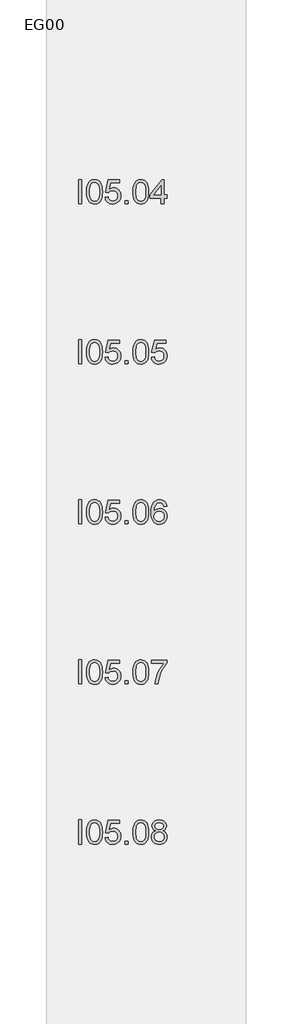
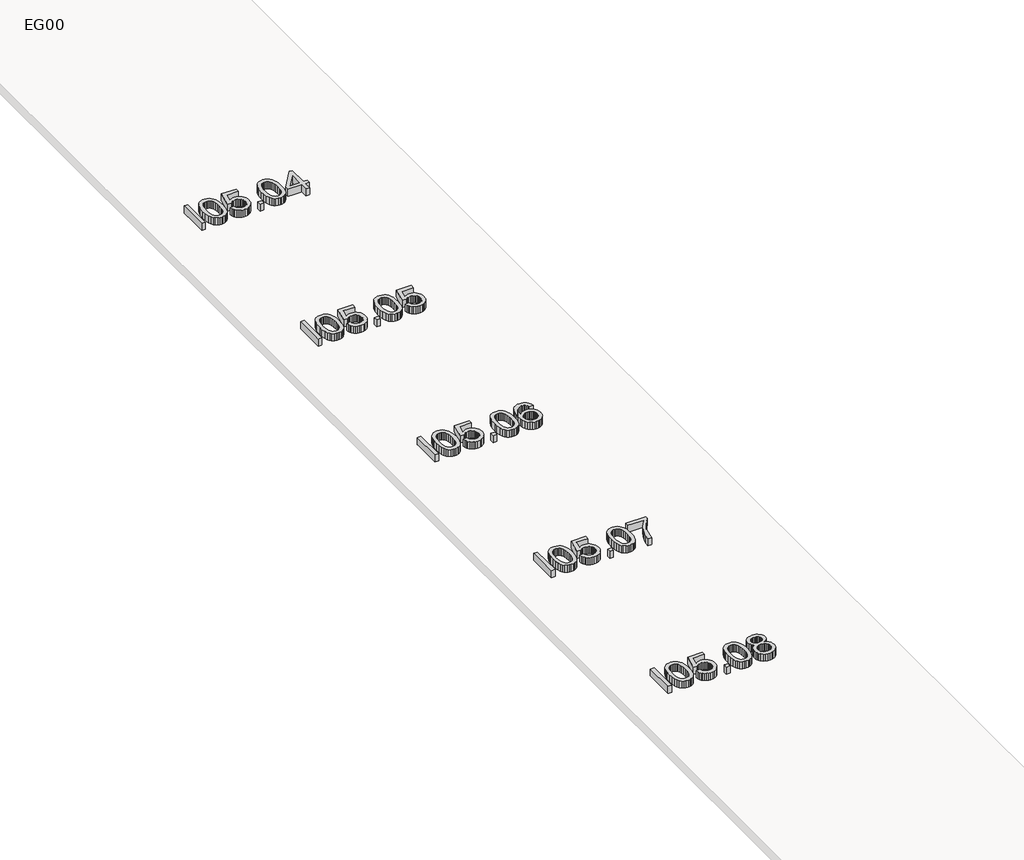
# One storey, part 5 of 11: 5 proxies.
"""IFC4 building model written with IfcOpenShell, lengths in millimetres."""

from ifc_helpers import new_model, si_unit, origin, origin_with_axes, place, context, project, spatial, polyline, outline, extrude, element, save

model = new_model("IFC4")

# Units and contexts
model_context = context("Model", 3, world=origin())
ifc_project = project(units=[si_unit("LENGTHUNIT", "METRE", prefix="MILLI")], contexts=[model_context])

# Site, building, storey
site = spatial("IfcSite", under=ifc_project)
building = spatial("IfcBuilding", under=site)
storey = spatial("IfcBuildingStorey", under=building, Name="EG00", Elevation=0.0)

# Proxies
placement = place(None, origin())
element("IfcBuildingElementProxy", 1, Name="600mm Arial", ObjectType="600mm Arial", at=placement, inside=storey, context=model_context, shape_type="SweptSolid", body=[
    extrude(outline(polyline([(41098.4530284, -102070.0529019), (41098.4530284, -101467.315041), (41173.795261, -101467.315041), (41173.795261, -102070.0529019), (41098.4530284, -102070.0529019)])), origin_with_axes(), (0.0, 0.0, 1.0), 150.0),
    extrude(outline(polyline([(41296.226389, -101773.5400137), (41301.763013, -101677.0629605), (41308.6837931, -101636.1498841), (41318.3728851, -101600.1204412), (41330.7889025, -101568.6803262), (41345.8904584, -101541.5352335), (41363.6775528, -101518.6851631), (41384.1501859, -101500.1301149), (41407.3773353, -101485.7735201), (41433.4279791, -101475.5188095), (41462.3021172, -101469.3659831), (41493.9997496, -101467.315041), (41540.4264574, -101472.1710833), (41581.9971229, -101486.7392103), (41616.7619714, -101510.4492049), (41642.7712285, -101542.73085), (41662.416127, -101583.308234), (41678.0879, -101631.9054456), (41688.3518077, -101693.6176503), (41691.7731102, -101773.5400137), (41686.2916685, -101869.465244), (41679.4398663, -101910.2403646), (41669.8473433, -101946.2238223), (41657.527895, -101977.6777329), (41642.495317, -102004.8642123), (41624.7496092, -102027.7832606), (41604.2907718, -102046.4348778), (41581.0360312, -102060.8880417), (41554.9026139, -102071.2117301), (41525.8905201, -102077.4059432), (41493.9997496, -102079.4706809), (41452.5026606, -102075.8838315), (41415.7144611, -102065.1232831), (41383.6351511, -102047.1890359), (41356.2647306, -102022.0810897), (41329.9979562, -101976.6936485), (41311.2359744, -101920.1409888), (41299.9787854, -101852.4231106), (41296.226389, -101773.5400137)]), holes=[polyline([(41371.5686216, -101773.3928609), (41373.7759136, -101838.8896517), (41380.3977895, -101891.9060457), (41391.4342494, -101932.442043), (41406.8852932, -101960.4976437), (41425.5736985, -101979.5861207), (41446.3222431, -101993.2207472), (41469.1309268, -102001.401523), (41493.9997496, -102004.1284483), (41518.8685725, -102001.392326), (41541.6772562, -101993.183959), (41562.4258007, -101979.5033473), (41581.1142061, -101960.3504909), (41596.5652499, -101932.248905), (41607.6017097, -101891.7221047), (41614.2235857, -101838.77009), (41616.4308776, -101773.3928609), (41614.297162, -101709.6297141), (41607.8960153, -101657.5468207), (41597.2274375, -101617.1441805), (41582.2914285, -101588.4217938), (41563.9157228, -101568.3998162), (41542.928055, -101554.0984036), (41519.328425, -101545.5175561), (41493.1168328, -101542.6572736), (41468.3767687, -101545.1772652), (41445.9543611, -101552.7372402), (41425.84961, -101565.3371986), (41408.0625156, -101582.9771402), (41392.096437, -101614.2471098), (41380.6920951, -101656.4063865), (41373.84949, -101709.4549702), (41371.5686216, -101773.3928609)])]), origin_with_axes(), (0.0, 0.0, 1.0), 150.0),
    extrude(outline(polyline([(41757.6975638, -101909.9506576), (41833.0397964, -101900.5328785), (41838.6683909, -101924.7533093), (41846.8721594, -101945.7639698), (41857.6511019, -101963.5648598), (41871.0052183, -101978.1559795), (41886.9069175, -101989.5189346), (41905.3286084, -101997.6353311), (41926.270291, -102002.505169), (41949.7319653, -102004.1284483), (41978.4267609, -102001.8705726), (42003.7370421, -101995.0969453), (42025.6628091, -101983.8075666), (42044.2040616, -101968.0024364), (42058.9469326, -101948.4633039), (42069.4775547, -101925.9719184), (42075.7959279, -101900.52828), (42077.9020524, -101872.1323885), (42075.9292852, -101845.2953969), (42070.0109836, -101821.4382495), (42060.1471476, -101800.5609463), (42046.3377772, -101782.6634872), (42028.5368871, -101768.3068924), (42006.6984922, -101758.0521818), (41980.8225924, -101751.8993554), (41950.9091876, -101749.8484133), (41914.3601114, -101753.122563), (41884.7640049, -101762.9450123), (41861.1275867, -101777.9913859), (41842.4575755, -101796.9373086), (41767.1153428, -101787.5195296), (41833.0397964, -101476.73282), (42124.9909478, -101476.73282), (42124.9909478, -101552.0750527), (41893.9610548, -101552.0750527), (41861.734592, -101718.0634089), (41888.3232632, -101699.0071215), (41915.5557279, -101685.3954877), (41943.4319861, -101677.2285074), (41971.9520378, -101674.5061806), (42008.6436683, -101677.881498), (42042.3462575, -101688.0074499), (42073.0598056, -101704.8840364), (42100.7843125, -101728.5112575), (42123.7355504, -101757.4451765), (42140.1292919, -101790.2418563), (42149.9655367, -101826.9012971), (42153.244285, -101867.4234989), (42150.292032, -101906.4557786), (42141.4352729, -101942.7657315), (42126.6740079, -101976.3533577), (42106.0082368, -102007.2186571), (42074.701479, -102038.8289175), (42038.1707969, -102061.407675), (41996.4161904, -102074.9549294), (41949.4376597, -102079.4706809), (41910.5571313, -102076.5690117), (41875.4381963, -102067.864004), (41844.0808548, -102053.3556578), (41816.4851066, -102033.0439731), (41793.5246716, -102007.9406255), (41776.0732694, -101979.0572904), (41764.1309002, -101946.3939677), (41757.6975638, -101909.9506576)])), origin_with_axes(), (0.0, 0.0, 1.0), 150.0),
    extrude(outline(polyline([(42256.8398548, -102070.0529019), (42256.8398548, -101994.7106692), (42332.1820874, -101994.7106692), (42332.1820874, -102070.0529019), (42256.8398548, -102070.0529019)])), origin_with_axes(), (0.0, 0.0, 1.0), 150.0),
    extrude(outline(polyline([(42454.6132154, -101773.5400137), (42460.1498395, -101677.0629605), (42467.0706195, -101636.1498841), (42476.7597115, -101600.1204412), (42489.1757289, -101568.6803262), (42504.2772848, -101541.5352335), (42522.0643792, -101518.6851631), (42542.5370123, -101500.1301149), (42565.7641618, -101485.7735201), (42591.8148055, -101475.5188095), (42620.6889436, -101469.3659831), (42652.386576, -101467.315041), (42698.8132838, -101472.1710833), (42740.3839493, -101486.7392103), (42775.1487978, -101510.4492049), (42801.1580549, -101542.73085), (42820.8029534, -101583.308234), (42836.4747264, -101631.9054456), (42846.7386341, -101693.6176503), (42850.1599366, -101773.5400137), (42844.6784949, -101869.465244), (42837.8266928, -101910.2403646), (42828.2341697, -101946.2238223), (42815.9147214, -101977.6777329), (42800.8821434, -102004.8642123), (42783.1364357, -102027.7832606), (42762.6775982, -102046.4348778), (42739.4228576, -102060.8880417), (42713.2894403, -102071.2117301), (42684.2773465, -102077.4059432), (42652.386576, -102079.4706809), (42610.889487, -102075.8838315), (42574.1012875, -102065.1232831), (42542.0219775, -102047.1890359), (42514.651557, -102022.0810897), (42488.3847826, -101976.6936485), (42469.6228008, -101920.1409888), (42458.3656118, -101852.4231106), (42454.6132154, -101773.5400137)]), holes=[polyline([(42529.955448, -101773.3928609), (42532.16274, -101838.8896517), (42538.7846159, -101891.9060457), (42549.8210758, -101932.442043), (42565.2721196, -101960.4976437), (42583.9605249, -101979.5861207), (42604.7090695, -101993.2207472), (42627.5177532, -102001.401523), (42652.386576, -102004.1284483), (42677.2553989, -102001.392326), (42700.0640826, -101993.183959), (42720.8126271, -101979.5033473), (42739.5010325, -101960.3504909), (42754.9520763, -101932.248905), (42765.9885362, -101891.7221047), (42772.6104121, -101838.77009), (42774.817704, -101773.3928609), (42772.6839885, -101709.6297141), (42766.2828417, -101657.5468207), (42755.6142639, -101617.1441805), (42740.6782549, -101588.4217938), (42722.3025492, -101568.3998162), (42701.3148814, -101554.0984036), (42677.7152514, -101545.5175561), (42651.5036593, -101542.6572736), (42626.7635951, -101545.1772652), (42604.3411875, -101552.7372402), (42584.2364364, -101565.3371986), (42566.449342, -101582.9771402), (42550.4832634, -101614.2471098), (42539.0789215, -101656.4063865), (42532.2363164, -101709.4549702), (42529.955448, -101773.3928609)])]), origin_with_axes(), (0.0, 0.0, 1.0), 150.0),
    extrude(outline(polyline([(43160.9466462, -102070.0529019), (43160.9466462, -101928.7862157), (42887.831053, -101928.7862157), (42887.831053, -101853.4439831), (43179.7822043, -101476.73282), (43236.2888788, -101476.73282), (43236.2888788, -101853.4439831), (43311.6311114, -101853.4439831), (43311.6311114, -101928.7862157), (43236.2888788, -101928.7862157), (43236.2888788, -102070.0529019), (43160.9466462, -102070.0529019)]), holes=[polyline([(43160.9466462, -101853.4439831), (43160.9466462, -101620.6482566), (42980.5373157, -101853.4439831), (43160.9466462, -101853.4439831)])]), origin_with_axes(), (0.0, 0.0, 1.0), 150.0),
])
element("IfcBuildingElementProxy", 2, Name="600mm Arial", ObjectType="600mm Arial", at=placement, inside=storey, context=model_context, shape_type="SweptSolid", body=[
    extrude(outline(polyline([(41098.4530284, -106070.0529019), (41098.4530284, -105467.315041), (41173.795261, -105467.315041), (41173.795261, -106070.0529019), (41098.4530284, -106070.0529019)])), origin_with_axes(), (0.0, 0.0, 1.0), 150.0),
    extrude(outline(polyline([(41296.226389, -105773.5400137), (41301.763013, -105677.0629605), (41308.6837931, -105636.1498841), (41318.3728851, -105600.1204412), (41330.7889025, -105568.6803262), (41345.8904584, -105541.5352335), (41363.6775528, -105518.6851631), (41384.1501859, -105500.1301149), (41407.3773353, -105485.7735201), (41433.4279791, -105475.5188095), (41462.3021172, -105469.3659831), (41493.9997496, -105467.315041), (41540.4264574, -105472.1710833), (41581.9971229, -105486.7392103), (41616.7619714, -105510.4492049), (41642.7712285, -105542.73085), (41662.416127, -105583.308234), (41678.0879, -105631.9054456), (41688.3518077, -105693.6176503), (41691.7731102, -105773.5400137), (41686.2916685, -105869.465244), (41679.4398663, -105910.2403646), (41669.8473433, -105946.2238223), (41657.527895, -105977.6777329), (41642.495317, -106004.8642123), (41624.7496092, -106027.7832606), (41604.2907718, -106046.4348778), (41581.0360312, -106060.8880417), (41554.9026139, -106071.2117301), (41525.8905201, -106077.4059432), (41493.9997496, -106079.4706809), (41452.5026606, -106075.8838315), (41415.7144611, -106065.1232831), (41383.6351511, -106047.1890359), (41356.2647306, -106022.0810897), (41329.9979562, -105976.6936485), (41311.2359744, -105920.1409888), (41299.9787854, -105852.4231106), (41296.226389, -105773.5400137)]), holes=[polyline([(41371.5686216, -105773.3928609), (41373.7759136, -105838.8896517), (41380.3977895, -105891.9060457), (41391.4342494, -105932.442043), (41406.8852932, -105960.4976437), (41425.5736985, -105979.5861207), (41446.3222431, -105993.2207472), (41469.1309268, -106001.401523), (41493.9997496, -106004.1284483), (41518.8685725, -106001.392326), (41541.6772562, -105993.183959), (41562.4258007, -105979.5033473), (41581.1142061, -105960.3504909), (41596.5652499, -105932.248905), (41607.6017097, -105891.7221047), (41614.2235857, -105838.77009), (41616.4308776, -105773.3928609), (41614.297162, -105709.6297141), (41607.8960153, -105657.5468207), (41597.2274375, -105617.1441805), (41582.2914285, -105588.4217938), (41563.9157228, -105568.3998162), (41542.928055, -105554.0984036), (41519.328425, -105545.5175561), (41493.1168328, -105542.6572736), (41468.3767687, -105545.1772652), (41445.9543611, -105552.7372402), (41425.84961, -105565.3371986), (41408.0625156, -105582.9771402), (41392.096437, -105614.2471098), (41380.6920951, -105656.4063865), (41373.84949, -105709.4549702), (41371.5686216, -105773.3928609)])]), origin_with_axes(), (0.0, 0.0, 1.0), 150.0),
    extrude(outline(polyline([(41757.6975638, -105909.9506576), (41833.0397964, -105900.5328785), (41838.6683909, -105924.7533093), (41846.8721594, -105945.7639698), (41857.6511019, -105963.5648598), (41871.0052183, -105978.1559795), (41886.9069175, -105989.5189346), (41905.3286084, -105997.6353311), (41926.270291, -106002.505169), (41949.7319653, -106004.1284483), (41978.4267609, -106001.8705726), (42003.7370421, -105995.0969453), (42025.6628091, -105983.8075666), (42044.2040616, -105968.0024364), (42058.9469326, -105948.4633039), (42069.4775547, -105925.9719184), (42075.7959279, -105900.52828), (42077.9020524, -105872.1323885), (42075.9292852, -105845.2953969), (42070.0109836, -105821.4382495), (42060.1471476, -105800.5609463), (42046.3377772, -105782.6634872), (42028.5368871, -105768.3068924), (42006.6984922, -105758.0521818), (41980.8225924, -105751.8993554), (41950.9091876, -105749.8484133), (41914.3601114, -105753.122563), (41884.7640049, -105762.9450123), (41861.1275867, -105777.9913859), (41842.4575755, -105796.9373086), (41767.1153428, -105787.5195296), (41833.0397964, -105476.73282), (42124.9909478, -105476.73282), (42124.9909478, -105552.0750527), (41893.9610548, -105552.0750527), (41861.734592, -105718.0634089), (41888.3232632, -105699.0071215), (41915.5557279, -105685.3954877), (41943.4319861, -105677.2285074), (41971.9520378, -105674.5061806), (42008.6436683, -105677.881498), (42042.3462575, -105688.0074499), (42073.0598056, -105704.8840364), (42100.7843125, -105728.5112575), (42123.7355504, -105757.4451765), (42140.1292919, -105790.2418563), (42149.9655367, -105826.9012971), (42153.244285, -105867.4234989), (42150.292032, -105906.4557786), (42141.4352729, -105942.7657315), (42126.6740079, -105976.3533577), (42106.0082368, -106007.2186571), (42074.701479, -106038.8289175), (42038.1707969, -106061.407675), (41996.4161904, -106074.9549294), (41949.4376597, -106079.4706809), (41910.5571313, -106076.5690117), (41875.4381963, -106067.864004), (41844.0808548, -106053.3556578), (41816.4851066, -106033.0439731), (41793.5246716, -106007.9406255), (41776.0732694, -105979.0572904), (41764.1309002, -105946.3939677), (41757.6975638, -105909.9506576)])), origin_with_axes(), (0.0, 0.0, 1.0), 150.0),
    extrude(outline(polyline([(42256.8398548, -106070.0529019), (42256.8398548, -105994.7106692), (42332.1820874, -105994.7106692), (42332.1820874, -106070.0529019), (42256.8398548, -106070.0529019)])), origin_with_axes(), (0.0, 0.0, 1.0), 150.0),
    extrude(outline(polyline([(42454.6132154, -105773.5400137), (42460.1498395, -105677.0629605), (42467.0706195, -105636.1498841), (42476.7597115, -105600.1204412), (42489.1757289, -105568.6803262), (42504.2772848, -105541.5352335), (42522.0643792, -105518.6851631), (42542.5370123, -105500.1301149), (42565.7641618, -105485.7735201), (42591.8148055, -105475.5188095), (42620.6889436, -105469.3659831), (42652.386576, -105467.315041), (42698.8132838, -105472.1710833), (42740.3839493, -105486.7392103), (42775.1487978, -105510.4492049), (42801.1580549, -105542.73085), (42820.8029534, -105583.308234), (42836.4747264, -105631.9054456), (42846.7386341, -105693.6176503), (42850.1599366, -105773.5400137), (42844.6784949, -105869.465244), (42837.8266928, -105910.2403646), (42828.2341697, -105946.2238223), (42815.9147214, -105977.6777329), (42800.8821434, -106004.8642123), (42783.1364357, -106027.7832606), (42762.6775982, -106046.4348778), (42739.4228576, -106060.8880417), (42713.2894403, -106071.2117301), (42684.2773465, -106077.4059432), (42652.386576, -106079.4706809), (42610.889487, -106075.8838315), (42574.1012875, -106065.1232831), (42542.0219775, -106047.1890359), (42514.651557, -106022.0810897), (42488.3847826, -105976.6936485), (42469.6228008, -105920.1409888), (42458.3656118, -105852.4231106), (42454.6132154, -105773.5400137)]), holes=[polyline([(42529.955448, -105773.3928609), (42532.16274, -105838.8896517), (42538.7846159, -105891.9060457), (42549.8210758, -105932.442043), (42565.2721196, -105960.4976437), (42583.9605249, -105979.5861207), (42604.7090695, -105993.2207472), (42627.5177532, -106001.401523), (42652.386576, -106004.1284483), (42677.2553989, -106001.392326), (42700.0640826, -105993.183959), (42720.8126271, -105979.5033473), (42739.5010325, -105960.3504909), (42754.9520763, -105932.248905), (42765.9885362, -105891.7221047), (42772.6104121, -105838.77009), (42774.817704, -105773.3928609), (42772.6839885, -105709.6297141), (42766.2828417, -105657.5468207), (42755.6142639, -105617.1441805), (42740.6782549, -105588.4217938), (42722.3025492, -105568.3998162), (42701.3148814, -105554.0984036), (42677.7152514, -105545.5175561), (42651.5036593, -105542.6572736), (42626.7635951, -105545.1772652), (42604.3411875, -105552.7372402), (42584.2364364, -105565.3371986), (42566.449342, -105582.9771402), (42550.4832634, -105614.2471098), (42539.0789215, -105656.4063865), (42532.2363164, -105709.4549702), (42529.955448, -105773.3928609)])]), origin_with_axes(), (0.0, 0.0, 1.0), 150.0),
    extrude(outline(polyline([(42916.0843902, -105909.9506576), (42991.4266228, -105900.5328785), (42997.0552173, -105924.7533093), (43005.2589858, -105945.7639698), (43016.0379283, -105963.5648598), (43029.3920447, -105978.1559795), (43045.2937439, -105989.5189346), (43063.7154348, -105997.6353311), (43084.6571174, -106002.505169), (43108.1187917, -106004.1284483), (43136.8135873, -106001.8705726), (43162.1238686, -105995.0969453), (43184.0496355, -105983.8075666), (43202.590888, -105968.0024364), (43217.333759, -105948.4633039), (43227.8643811, -105925.9719184), (43234.1827544, -105900.52828), (43236.2888788, -105872.1323885), (43234.3161116, -105845.2953969), (43228.39781, -105821.4382495), (43218.533974, -105800.5609463), (43204.7246036, -105782.6634872), (43186.9237136, -105768.3068924), (43165.0853186, -105758.0521818), (43139.2094188, -105751.8993554), (43109.296014, -105749.8484133), (43072.7469378, -105753.122563), (43043.1508313, -105762.9450123), (43019.5144131, -105777.9913859), (43000.8444019, -105796.9373086), (42925.5021693, -105787.5195296), (42991.4266228, -105476.73282), (43283.3777742, -105476.73282), (43283.3777742, -105552.0750527), (43052.3478812, -105552.0750527), (43020.1214184, -105718.0634089), (43046.7100896, -105699.0071215), (43073.9425543, -105685.3954877), (43101.8188125, -105677.2285074), (43130.3388642, -105674.5061806), (43167.0304947, -105677.881498), (43200.733084, -105688.0074499), (43231.446632, -105704.8840364), (43259.1711389, -105728.5112575), (43282.1223769, -105757.4451765), (43298.5161183, -105790.2418563), (43308.3523631, -105826.9012971), (43311.6311114, -105867.4234989), (43308.6788584, -105906.4557786), (43299.8220994, -105942.7657315), (43285.0608343, -105976.3533577), (43264.3950632, -106007.2186571), (43233.0883054, -106038.8289175), (43196.5576233, -106061.407675), (43154.8030169, -106074.9549294), (43107.8244861, -106079.4706809), (43068.9439577, -106076.5690117), (43033.8250227, -106067.864004), (43002.4676812, -106053.3556578), (42974.871933, -106033.0439731), (42951.911498, -106007.9406255), (42934.4600958, -105979.0572904), (42922.5177266, -105946.3939677), (42916.0843902, -105909.9506576)])), origin_with_axes(), (0.0, 0.0, 1.0), 150.0),
])
element("IfcBuildingElementProxy", 3, Name="600mm Arial", ObjectType="600mm Arial", at=placement, inside=storey, context=model_context, shape_type="SweptSolid", body=[
    extrude(outline(polyline([(41098.4530284, -110070.0529019), (41098.4530284, -109467.315041), (41173.795261, -109467.315041), (41173.795261, -110070.0529019), (41098.4530284, -110070.0529019)])), origin_with_axes(), (0.0, 0.0, 1.0), 150.0),
    extrude(outline(polyline([(41296.226389, -109773.5400137), (41301.763013, -109677.0629605), (41308.6837931, -109636.1498841), (41318.3728851, -109600.1204412), (41330.7889025, -109568.6803262), (41345.8904584, -109541.5352335), (41363.6775528, -109518.6851631), (41384.1501859, -109500.1301149), (41407.3773353, -109485.7735201), (41433.4279791, -109475.5188095), (41462.3021172, -109469.3659831), (41493.9997496, -109467.315041), (41540.4264574, -109472.1710833), (41581.9971229, -109486.7392103), (41616.7619714, -109510.4492049), (41642.7712285, -109542.73085), (41662.416127, -109583.308234), (41678.0879, -109631.9054456), (41688.3518077, -109693.6176503), (41691.7731102, -109773.5400137), (41686.2916685, -109869.465244), (41679.4398663, -109910.2403646), (41669.8473433, -109946.2238223), (41657.527895, -109977.6777329), (41642.495317, -110004.8642123), (41624.7496092, -110027.7832606), (41604.2907718, -110046.4348778), (41581.0360312, -110060.8880417), (41554.9026139, -110071.2117301), (41525.8905201, -110077.4059432), (41493.9997496, -110079.4706809), (41452.5026606, -110075.8838315), (41415.7144611, -110065.1232831), (41383.6351511, -110047.1890359), (41356.2647306, -110022.0810897), (41329.9979562, -109976.6936485), (41311.2359744, -109920.1409888), (41299.9787854, -109852.4231106), (41296.226389, -109773.5400137)]), holes=[polyline([(41371.5686216, -109773.3928609), (41373.7759136, -109838.8896517), (41380.3977895, -109891.9060457), (41391.4342494, -109932.442043), (41406.8852932, -109960.4976437), (41425.5736985, -109979.5861207), (41446.3222431, -109993.2207472), (41469.1309268, -110001.401523), (41493.9997496, -110004.1284483), (41518.8685725, -110001.392326), (41541.6772562, -109993.183959), (41562.4258007, -109979.5033473), (41581.1142061, -109960.3504909), (41596.5652499, -109932.248905), (41607.6017097, -109891.7221047), (41614.2235857, -109838.77009), (41616.4308776, -109773.3928609), (41614.297162, -109709.6297141), (41607.8960153, -109657.5468207), (41597.2274375, -109617.1441805), (41582.2914285, -109588.4217938), (41563.9157228, -109568.3998162), (41542.928055, -109554.0984036), (41519.328425, -109545.5175561), (41493.1168328, -109542.6572736), (41468.3767687, -109545.1772652), (41445.9543611, -109552.7372402), (41425.84961, -109565.3371986), (41408.0625156, -109582.9771402), (41392.096437, -109614.2471098), (41380.6920951, -109656.4063865), (41373.84949, -109709.4549702), (41371.5686216, -109773.3928609)])]), origin_with_axes(), (0.0, 0.0, 1.0), 150.0),
    extrude(outline(polyline([(41757.6975638, -109909.9506576), (41833.0397964, -109900.5328785), (41838.6683909, -109924.7533093), (41846.8721594, -109945.7639698), (41857.6511019, -109963.5648598), (41871.0052183, -109978.1559795), (41886.9069175, -109989.5189346), (41905.3286084, -109997.6353311), (41926.270291, -110002.505169), (41949.7319653, -110004.1284483), (41978.4267609, -110001.8705726), (42003.7370421, -109995.0969453), (42025.6628091, -109983.8075666), (42044.2040616, -109968.0024364), (42058.9469326, -109948.4633039), (42069.4775547, -109925.9719184), (42075.7959279, -109900.52828), (42077.9020524, -109872.1323885), (42075.9292852, -109845.2953969), (42070.0109836, -109821.4382495), (42060.1471476, -109800.5609463), (42046.3377772, -109782.6634872), (42028.5368871, -109768.3068924), (42006.6984922, -109758.0521818), (41980.8225924, -109751.8993554), (41950.9091876, -109749.8484133), (41914.3601114, -109753.122563), (41884.7640049, -109762.9450123), (41861.1275867, -109777.9913859), (41842.4575755, -109796.9373086), (41767.1153428, -109787.5195296), (41833.0397964, -109476.73282), (42124.9909478, -109476.73282), (42124.9909478, -109552.0750527), (41893.9610548, -109552.0750527), (41861.734592, -109718.0634089), (41888.3232632, -109699.0071215), (41915.5557279, -109685.3954877), (41943.4319861, -109677.2285074), (41971.9520378, -109674.5061806), (42008.6436683, -109677.881498), (42042.3462575, -109688.0074499), (42073.0598056, -109704.8840364), (42100.7843125, -109728.5112575), (42123.7355504, -109757.4451765), (42140.1292919, -109790.2418563), (42149.9655367, -109826.9012971), (42153.244285, -109867.4234989), (42150.292032, -109906.4557786), (42141.4352729, -109942.7657315), (42126.6740079, -109976.3533577), (42106.0082368, -110007.2186571), (42074.701479, -110038.8289175), (42038.1707969, -110061.407675), (41996.4161904, -110074.9549294), (41949.4376597, -110079.4706809), (41910.5571313, -110076.5690117), (41875.4381963, -110067.864004), (41844.0808548, -110053.3556578), (41816.4851066, -110033.0439731), (41793.5246716, -110007.9406255), (41776.0732694, -109979.0572904), (41764.1309002, -109946.3939677), (41757.6975638, -109909.9506576)])), origin_with_axes(), (0.0, 0.0, 1.0), 150.0),
    extrude(outline(polyline([(42256.8398548, -110070.0529019), (42256.8398548, -109994.7106692), (42332.1820874, -109994.7106692), (42332.1820874, -110070.0529019), (42256.8398548, -110070.0529019)])), origin_with_axes(), (0.0, 0.0, 1.0), 150.0),
    extrude(outline(polyline([(42454.6132154, -109773.5400137), (42460.1498395, -109677.0629605), (42467.0706195, -109636.1498841), (42476.7597115, -109600.1204412), (42489.1757289, -109568.6803262), (42504.2772848, -109541.5352335), (42522.0643792, -109518.6851631), (42542.5370123, -109500.1301149), (42565.7641618, -109485.7735201), (42591.8148055, -109475.5188095), (42620.6889436, -109469.3659831), (42652.386576, -109467.315041), (42698.8132838, -109472.1710833), (42740.3839493, -109486.7392103), (42775.1487978, -109510.4492049), (42801.1580549, -109542.73085), (42820.8029534, -109583.308234), (42836.4747264, -109631.9054456), (42846.7386341, -109693.6176503), (42850.1599366, -109773.5400137), (42844.6784949, -109869.465244), (42837.8266928, -109910.2403646), (42828.2341697, -109946.2238223), (42815.9147214, -109977.6777329), (42800.8821434, -110004.8642123), (42783.1364357, -110027.7832606), (42762.6775982, -110046.4348778), (42739.4228576, -110060.8880417), (42713.2894403, -110071.2117301), (42684.2773465, -110077.4059432), (42652.386576, -110079.4706809), (42610.889487, -110075.8838315), (42574.1012875, -110065.1232831), (42542.0219775, -110047.1890359), (42514.651557, -110022.0810897), (42488.3847826, -109976.6936485), (42469.6228008, -109920.1409888), (42458.3656118, -109852.4231106), (42454.6132154, -109773.5400137)]), holes=[polyline([(42529.955448, -109773.3928609), (42532.16274, -109838.8896517), (42538.7846159, -109891.9060457), (42549.8210758, -109932.442043), (42565.2721196, -109960.4976437), (42583.9605249, -109979.5861207), (42604.7090695, -109993.2207472), (42627.5177532, -110001.401523), (42652.386576, -110004.1284483), (42677.2553989, -110001.392326), (42700.0640826, -109993.183959), (42720.8126271, -109979.5033473), (42739.5010325, -109960.3504909), (42754.9520763, -109932.248905), (42765.9885362, -109891.7221047), (42772.6104121, -109838.77009), (42774.817704, -109773.3928609), (42772.6839885, -109709.6297141), (42766.2828417, -109657.5468207), (42755.6142639, -109617.1441805), (42740.6782549, -109588.4217938), (42722.3025492, -109568.3998162), (42701.3148814, -109554.0984036), (42677.7152514, -109545.5175561), (42651.5036593, -109542.6572736), (42626.7635951, -109545.1772652), (42604.3411875, -109552.7372402), (42584.2364364, -109565.3371986), (42566.449342, -109582.9771402), (42550.4832634, -109614.2471098), (42539.0789215, -109656.4063865), (42532.2363164, -109709.4549702), (42529.955448, -109773.3928609)])]), origin_with_axes(), (0.0, 0.0, 1.0), 150.0),
    extrude(outline(polyline([(43302.2133323, -109627.4172853), (43226.8710997, -109636.8350643), (43214.7309939, -109599.4950418), (43198.3234569, -109574.0008196), (43182.127452, -109560.2880182), (43164.1472195, -109550.4931601), (43144.3827593, -109544.6162452), (43122.8340715, -109542.6572736), (43087.8117055, -109547.2190103), (43054.8494788, -109560.9042205), (43026.5409592, -109589.7277749), (43003.4195758, -109629.403848), (42994.3834743, -109654.7095308), (42987.8029851, -109685.5242464), (42982.0088437, -109763.6807763), (43012.2303496, -109728.419287), (43048.448332, -109703.5688583), (43088.63944, -109688.8351844), (43130.7803226, -109683.9239597), (43166.9799109, -109687.2808829), (43200.3835961, -109697.3516525), (43230.9913781, -109714.1362686), (43258.8032569, -109737.634731), (43281.9154432, -109766.4490883), (43298.4241478, -109799.1813888), (43308.3293705, -109835.8316326), (43311.6311114, -109876.3998196), (43310.07681, -109903.8668091), (43305.4139057, -109930.3497142), (43297.6423985, -109955.848535), (43286.7622885, -109980.3632714), (43273.1598518, -110002.9788171), (43257.2213643, -110022.7800655), (43238.9468262, -110039.7670166), (43218.3362374, -110053.9396705), (43195.8310564, -110065.1094875), (43171.8727414, -110073.0879283), (43146.4612926, -110077.8749928), (43119.5967099, -110079.4706809), (43074.6829168, -110075.240038), (43034.1193283, -110062.5481092), (42997.9059444, -110041.3948944), (42966.0427651, -110011.7803938), (42940.0656977, -109972.4538085), (42921.5106496, -109922.1643398), (42910.3776207, -109860.9119876), (42906.6666111, -109788.6967519), (42910.7868895, -109707.7351219), (42923.1477245, -109638.6376861), (42943.7491162, -109581.4044447), (42957.1400208, -109557.2368969), (42972.5910646, -109536.0353977), (43003.8518372, -109505.9702416), (43040.0974108, -109484.4951301), (43081.3277854, -109471.6100633), (43127.542961, -109467.315041), (43162.2434302, -109469.9729884), (43193.6513555, -109477.9468306), (43221.766737, -109491.2365677), (43246.5895746, -109509.8421996), (43267.4484838, -109533.1383269), (43283.6720798, -109560.4995503), (43295.2603626, -109591.9258698), (43302.2133323, -109627.4172853)]), holes=[polyline([(42982.0088437, -109875.2225972), (42986.3682454, -109908.6078883), (42999.4464503, -109940.4848632), (43019.7535364, -109967.8920718), (43045.7995817, -109987.8680641), (43077.2350982, -110000.0633523), (43113.710598, -110004.1284483), (43139.8991975, -110002.0223239), (43163.4298496, -109995.7039506), (43184.3025543, -109985.1733285), (43202.5173116, -109970.4304576), (43217.2923723, -109952.073146), (43227.845987, -109930.6992021), (43234.1781558, -109906.3086258), (43236.2888788, -109878.9014172), (43234.205747, -109852.5656648), (43227.9563516, -109829.1821655), (43217.5406926, -109808.7509192), (43202.95877, -109791.2719259), (43184.6888304, -109777.2694175), (43163.2091204, -109767.2676257), (43138.51964, -109761.2665507), (43110.6203892, -109759.2661923), (43084.7812776, -109761.2665507), (43060.974714, -109767.2676257), (43039.2006984, -109777.2694175), (43019.4592308, -109791.2719259), (43003.0746865, -109808.520993), (42991.3714405, -109828.2624605), (42984.3494929, -109850.4963286), (42982.0088437, -109875.2225972)])]), origin_with_axes(), (0.0, 0.0, 1.0), 150.0),
])
element("IfcBuildingElementProxy", 4, Name="600mm Arial", ObjectType="600mm Arial", at=placement, inside=storey, context=model_context, shape_type="SweptSolid", body=[
    extrude(outline(polyline([(41098.4530284, -114070.0529019), (41098.4530284, -113467.315041), (41173.795261, -113467.315041), (41173.795261, -114070.0529019), (41098.4530284, -114070.0529019)])), origin_with_axes(), (0.0, 0.0, 1.0), 150.0),
    extrude(outline(polyline([(41296.226389, -113773.5400137), (41301.763013, -113677.0629605), (41308.6837931, -113636.1498841), (41318.3728851, -113600.1204412), (41330.7889025, -113568.6803262), (41345.8904584, -113541.5352335), (41363.6775528, -113518.6851631), (41384.1501859, -113500.1301149), (41407.3773353, -113485.7735201), (41433.4279791, -113475.5188095), (41462.3021172, -113469.3659831), (41493.9997496, -113467.315041), (41540.4264574, -113472.1710833), (41581.9971229, -113486.7392103), (41616.7619714, -113510.4492049), (41642.7712285, -113542.73085), (41662.416127, -113583.308234), (41678.0879, -113631.9054456), (41688.3518077, -113693.6176503), (41691.7731102, -113773.5400137), (41686.2916685, -113869.465244), (41679.4398663, -113910.2403646), (41669.8473433, -113946.2238223), (41657.527895, -113977.6777329), (41642.495317, -114004.8642123), (41624.7496092, -114027.7832606), (41604.2907718, -114046.4348778), (41581.0360312, -114060.8880417), (41554.9026139, -114071.2117301), (41525.8905201, -114077.4059432), (41493.9997496, -114079.4706809), (41452.5026606, -114075.8838315), (41415.7144611, -114065.1232831), (41383.6351511, -114047.1890359), (41356.2647306, -114022.0810897), (41329.9979562, -113976.6936485), (41311.2359744, -113920.1409888), (41299.9787854, -113852.4231106), (41296.226389, -113773.5400137)]), holes=[polyline([(41371.5686216, -113773.3928609), (41373.7759136, -113838.8896517), (41380.3977895, -113891.9060457), (41391.4342494, -113932.442043), (41406.8852932, -113960.4976437), (41425.5736985, -113979.5861207), (41446.3222431, -113993.2207472), (41469.1309268, -114001.401523), (41493.9997496, -114004.1284483), (41518.8685725, -114001.392326), (41541.6772562, -113993.183959), (41562.4258007, -113979.5033473), (41581.1142061, -113960.3504909), (41596.5652499, -113932.248905), (41607.6017097, -113891.7221047), (41614.2235857, -113838.77009), (41616.4308776, -113773.3928609), (41614.297162, -113709.6297141), (41607.8960153, -113657.5468207), (41597.2274375, -113617.1441805), (41582.2914285, -113588.4217938), (41563.9157228, -113568.3998162), (41542.928055, -113554.0984036), (41519.328425, -113545.5175561), (41493.1168328, -113542.6572736), (41468.3767687, -113545.1772652), (41445.9543611, -113552.7372402), (41425.84961, -113565.3371986), (41408.0625156, -113582.9771402), (41392.096437, -113614.2471098), (41380.6920951, -113656.4063865), (41373.84949, -113709.4549702), (41371.5686216, -113773.3928609)])]), origin_with_axes(), (0.0, 0.0, 1.0), 150.0),
    extrude(outline(polyline([(41757.6975638, -113909.9506576), (41833.0397964, -113900.5328785), (41838.6683909, -113924.7533093), (41846.8721594, -113945.7639698), (41857.6511019, -113963.5648598), (41871.0052183, -113978.1559795), (41886.9069175, -113989.5189346), (41905.3286084, -113997.6353311), (41926.270291, -114002.505169), (41949.7319653, -114004.1284483), (41978.4267609, -114001.8705726), (42003.7370421, -113995.0969453), (42025.6628091, -113983.8075666), (42044.2040616, -113968.0024364), (42058.9469326, -113948.4633039), (42069.4775547, -113925.9719184), (42075.7959279, -113900.52828), (42077.9020524, -113872.1323885), (42075.9292852, -113845.2953969), (42070.0109836, -113821.4382495), (42060.1471476, -113800.5609463), (42046.3377772, -113782.6634872), (42028.5368871, -113768.3068924), (42006.6984922, -113758.0521818), (41980.8225924, -113751.8993554), (41950.9091876, -113749.8484133), (41914.3601114, -113753.122563), (41884.7640049, -113762.9450123), (41861.1275867, -113777.9913859), (41842.4575755, -113796.9373086), (41767.1153428, -113787.5195296), (41833.0397964, -113476.73282), (42124.9909478, -113476.73282), (42124.9909478, -113552.0750527), (41893.9610548, -113552.0750527), (41861.734592, -113718.0634089), (41888.3232632, -113699.0071215), (41915.5557279, -113685.3954877), (41943.4319861, -113677.2285074), (41971.9520378, -113674.5061806), (42008.6436683, -113677.881498), (42042.3462575, -113688.0074499), (42073.0598056, -113704.8840364), (42100.7843125, -113728.5112575), (42123.7355504, -113757.4451765), (42140.1292919, -113790.2418563), (42149.9655367, -113826.9012971), (42153.244285, -113867.4234989), (42150.292032, -113906.4557786), (42141.4352729, -113942.7657315), (42126.6740079, -113976.3533577), (42106.0082368, -114007.2186571), (42074.701479, -114038.8289175), (42038.1707969, -114061.407675), (41996.4161904, -114074.9549294), (41949.4376597, -114079.4706809), (41910.5571313, -114076.5690117), (41875.4381963, -114067.864004), (41844.0808548, -114053.3556578), (41816.4851066, -114033.0439731), (41793.5246716, -114007.9406255), (41776.0732694, -113979.0572904), (41764.1309002, -113946.3939677), (41757.6975638, -113909.9506576)])), origin_with_axes(), (0.0, 0.0, 1.0), 150.0),
    extrude(outline(polyline([(42256.8398548, -114070.0529019), (42256.8398548, -113994.7106692), (42332.1820874, -113994.7106692), (42332.1820874, -114070.0529019), (42256.8398548, -114070.0529019)])), origin_with_axes(), (0.0, 0.0, 1.0), 150.0),
    extrude(outline(polyline([(42454.6132154, -113773.5400137), (42460.1498395, -113677.0629605), (42467.0706195, -113636.1498841), (42476.7597115, -113600.1204412), (42489.1757289, -113568.6803262), (42504.2772848, -113541.5352335), (42522.0643792, -113518.6851631), (42542.5370123, -113500.1301149), (42565.7641618, -113485.7735201), (42591.8148055, -113475.5188095), (42620.6889436, -113469.3659831), (42652.386576, -113467.315041), (42698.8132838, -113472.1710833), (42740.3839493, -113486.7392103), (42775.1487978, -113510.4492049), (42801.1580549, -113542.73085), (42820.8029534, -113583.308234), (42836.4747264, -113631.9054456), (42846.7386341, -113693.6176503), (42850.1599366, -113773.5400137), (42844.6784949, -113869.465244), (42837.8266928, -113910.2403646), (42828.2341697, -113946.2238223), (42815.9147214, -113977.6777329), (42800.8821434, -114004.8642123), (42783.1364357, -114027.7832606), (42762.6775982, -114046.4348778), (42739.4228576, -114060.8880417), (42713.2894403, -114071.2117301), (42684.2773465, -114077.4059432), (42652.386576, -114079.4706809), (42610.889487, -114075.8838315), (42574.1012875, -114065.1232831), (42542.0219775, -114047.1890359), (42514.651557, -114022.0810897), (42488.3847826, -113976.6936485), (42469.6228008, -113920.1409888), (42458.3656118, -113852.4231106), (42454.6132154, -113773.5400137)]), holes=[polyline([(42529.955448, -113773.3928609), (42532.16274, -113838.8896517), (42538.7846159, -113891.9060457), (42549.8210758, -113932.442043), (42565.2721196, -113960.4976437), (42583.9605249, -113979.5861207), (42604.7090695, -113993.2207472), (42627.5177532, -114001.401523), (42652.386576, -114004.1284483), (42677.2553989, -114001.392326), (42700.0640826, -113993.183959), (42720.8126271, -113979.5033473), (42739.5010325, -113960.3504909), (42754.9520763, -113932.248905), (42765.9885362, -113891.7221047), (42772.6104121, -113838.77009), (42774.817704, -113773.3928609), (42772.6839885, -113709.6297141), (42766.2828417, -113657.5468207), (42755.6142639, -113617.1441805), (42740.6782549, -113588.4217938), (42722.3025492, -113568.3998162), (42701.3148814, -113554.0984036), (42677.7152514, -113545.5175561), (42651.5036593, -113542.6572736), (42626.7635951, -113545.1772652), (42604.3411875, -113552.7372402), (42584.2364364, -113565.3371986), (42566.449342, -113582.9771402), (42550.4832634, -113614.2471098), (42539.0789215, -113656.4063865), (42532.2363164, -113709.4549702), (42529.955448, -113773.3928609)])]), origin_with_axes(), (0.0, 0.0, 1.0), 150.0),
    extrude(outline(polyline([(42916.0843902, -113552.0750527), (42916.0843902, -113476.73282), (43311.6311114, -113476.73282), (43311.6311114, -113537.6540784), (43255.2531956, -113609.0047914), (43199.4271029, -113699.7428855), (43150.1860978, -113801.5910159), (43130.2974774, -113853.5773403), (43113.5634452, -113906.2718376), (43095.6108038, -113984.5939144), (43085.6044136, -114070.0529019), (43010.2621809, -114070.0529019), (43018.4107671, -113992.3930127), (43040.2077754, -113900.0914201), (43056.0772849, -113850.7262549), (43075.0645944, -113802.2532035), (43097.1697038, -113754.6722659), (43122.3926131, -113707.9834422), (43177.6484888, -113622.763578), (43236.2888788, -113552.0750527), (42916.0843902, -113552.0750527)])), origin_with_axes(), (0.0, 0.0, 1.0), 150.0),
])
element("IfcBuildingElementProxy", 5, Name="600mm Arial", ObjectType="600mm Arial", at=placement, inside=storey, context=model_context, shape_type="SweptSolid", body=[
    extrude(outline(polyline([(41098.4530284, -118070.0529019), (41098.4530284, -117467.315041), (41173.795261, -117467.315041), (41173.795261, -118070.0529019), (41098.4530284, -118070.0529019)])), origin_with_axes(), (0.0, 0.0, 1.0), 150.0),
    extrude(outline(polyline([(41296.226389, -117773.5400137), (41301.763013, -117677.0629605), (41308.6837931, -117636.1498841), (41318.3728851, -117600.1204412), (41330.7889025, -117568.6803262), (41345.8904584, -117541.5352335), (41363.6775528, -117518.6851631), (41384.1501859, -117500.1301149), (41407.3773353, -117485.7735201), (41433.4279791, -117475.5188095), (41462.3021172, -117469.3659831), (41493.9997496, -117467.315041), (41540.4264574, -117472.1710833), (41581.9971229, -117486.7392103), (41616.7619714, -117510.4492049), (41642.7712285, -117542.73085), (41662.416127, -117583.308234), (41678.0879, -117631.9054456), (41688.3518077, -117693.6176503), (41691.7731102, -117773.5400137), (41686.2916685, -117869.465244), (41679.4398663, -117910.2403646), (41669.8473433, -117946.2238223), (41657.527895, -117977.6777329), (41642.495317, -118004.8642123), (41624.7496092, -118027.7832606), (41604.2907718, -118046.4348778), (41581.0360312, -118060.8880417), (41554.9026139, -118071.2117301), (41525.8905201, -118077.4059432), (41493.9997496, -118079.4706809), (41452.5026606, -118075.8838315), (41415.7144611, -118065.1232831), (41383.6351511, -118047.1890359), (41356.2647306, -118022.0810897), (41329.9979562, -117976.6936485), (41311.2359744, -117920.1409888), (41299.9787854, -117852.4231106), (41296.226389, -117773.5400137)]), holes=[polyline([(41371.5686216, -117773.3928609), (41373.7759136, -117838.8896517), (41380.3977895, -117891.9060457), (41391.4342494, -117932.442043), (41406.8852932, -117960.4976437), (41425.5736985, -117979.5861207), (41446.3222431, -117993.2207472), (41469.1309268, -118001.401523), (41493.9997496, -118004.1284483), (41518.8685725, -118001.392326), (41541.6772562, -117993.183959), (41562.4258007, -117979.5033473), (41581.1142061, -117960.3504909), (41596.5652499, -117932.248905), (41607.6017097, -117891.7221047), (41614.2235857, -117838.77009), (41616.4308776, -117773.3928609), (41614.297162, -117709.6297141), (41607.8960153, -117657.5468207), (41597.2274375, -117617.1441805), (41582.2914285, -117588.4217938), (41563.9157228, -117568.3998162), (41542.928055, -117554.0984036), (41519.328425, -117545.5175561), (41493.1168328, -117542.6572736), (41468.3767687, -117545.1772652), (41445.9543611, -117552.7372402), (41425.84961, -117565.3371986), (41408.0625156, -117582.9771402), (41392.096437, -117614.2471098), (41380.6920951, -117656.4063865), (41373.84949, -117709.4549702), (41371.5686216, -117773.3928609)])]), origin_with_axes(), (0.0, 0.0, 1.0), 150.0),
    extrude(outline(polyline([(41757.6975638, -117909.9506576), (41833.0397964, -117900.5328785), (41838.6683909, -117924.7533093), (41846.8721594, -117945.7639698), (41857.6511019, -117963.5648598), (41871.0052183, -117978.1559795), (41886.9069175, -117989.5189346), (41905.3286084, -117997.6353311), (41926.270291, -118002.505169), (41949.7319653, -118004.1284483), (41978.4267609, -118001.8705726), (42003.7370421, -117995.0969453), (42025.6628091, -117983.8075666), (42044.2040616, -117968.0024364), (42058.9469326, -117948.4633039), (42069.4775547, -117925.9719184), (42075.7959279, -117900.52828), (42077.9020524, -117872.1323885), (42075.9292852, -117845.2953969), (42070.0109836, -117821.4382495), (42060.1471476, -117800.5609463), (42046.3377772, -117782.6634872), (42028.5368871, -117768.3068924), (42006.6984922, -117758.0521818), (41980.8225924, -117751.8993554), (41950.9091876, -117749.8484133), (41914.3601114, -117753.122563), (41884.7640049, -117762.9450123), (41861.1275867, -117777.9913859), (41842.4575755, -117796.9373086), (41767.1153428, -117787.5195296), (41833.0397964, -117476.73282), (42124.9909478, -117476.73282), (42124.9909478, -117552.0750527), (41893.9610548, -117552.0750527), (41861.734592, -117718.0634089), (41888.3232632, -117699.0071215), (41915.5557279, -117685.3954877), (41943.4319861, -117677.2285074), (41971.9520378, -117674.5061806), (42008.6436683, -117677.881498), (42042.3462575, -117688.0074499), (42073.0598056, -117704.8840364), (42100.7843125, -117728.5112575), (42123.7355504, -117757.4451765), (42140.1292919, -117790.2418563), (42149.9655367, -117826.9012971), (42153.244285, -117867.4234989), (42150.292032, -117906.4557786), (42141.4352729, -117942.7657315), (42126.6740079, -117976.3533577), (42106.0082368, -118007.2186571), (42074.701479, -118038.8289175), (42038.1707969, -118061.407675), (41996.4161904, -118074.9549294), (41949.4376597, -118079.4706809), (41910.5571313, -118076.5690117), (41875.4381963, -118067.864004), (41844.0808548, -118053.3556578), (41816.4851066, -118033.0439731), (41793.5246716, -118007.9406255), (41776.0732694, -117979.0572904), (41764.1309002, -117946.3939677), (41757.6975638, -117909.9506576)])), origin_with_axes(), (0.0, 0.0, 1.0), 150.0),
    extrude(outline(polyline([(42256.8398548, -118070.0529019), (42256.8398548, -117994.7106692), (42332.1820874, -117994.7106692), (42332.1820874, -118070.0529019), (42256.8398548, -118070.0529019)])), origin_with_axes(), (0.0, 0.0, 1.0), 150.0),
    extrude(outline(polyline([(42454.6132154, -117773.5400137), (42460.1498395, -117677.0629605), (42467.0706195, -117636.1498841), (42476.7597115, -117600.1204412), (42489.1757289, -117568.6803262), (42504.2772848, -117541.5352335), (42522.0643792, -117518.6851631), (42542.5370123, -117500.1301149), (42565.7641618, -117485.7735201), (42591.8148055, -117475.5188095), (42620.6889436, -117469.3659831), (42652.386576, -117467.315041), (42698.8132838, -117472.1710833), (42740.3839493, -117486.7392103), (42775.1487978, -117510.4492049), (42801.1580549, -117542.73085), (42820.8029534, -117583.308234), (42836.4747264, -117631.9054456), (42846.7386341, -117693.6176503), (42850.1599366, -117773.5400137), (42844.6784949, -117869.465244), (42837.8266928, -117910.2403646), (42828.2341697, -117946.2238223), (42815.9147214, -117977.6777329), (42800.8821434, -118004.8642123), (42783.1364357, -118027.7832606), (42762.6775982, -118046.4348778), (42739.4228576, -118060.8880417), (42713.2894403, -118071.2117301), (42684.2773465, -118077.4059432), (42652.386576, -118079.4706809), (42610.889487, -118075.8838315), (42574.1012875, -118065.1232831), (42542.0219775, -118047.1890359), (42514.651557, -118022.0810897), (42488.3847826, -117976.6936485), (42469.6228008, -117920.1409888), (42458.3656118, -117852.4231106), (42454.6132154, -117773.5400137)]), holes=[polyline([(42529.955448, -117773.3928609), (42532.16274, -117838.8896517), (42538.7846159, -117891.9060457), (42549.8210758, -117932.442043), (42565.2721196, -117960.4976437), (42583.9605249, -117979.5861207), (42604.7090695, -117993.2207472), (42627.5177532, -118001.401523), (42652.386576, -118004.1284483), (42677.2553989, -118001.392326), (42700.0640826, -117993.183959), (42720.8126271, -117979.5033473), (42739.5010325, -117960.3504909), (42754.9520763, -117932.248905), (42765.9885362, -117891.7221047), (42772.6104121, -117838.77009), (42774.817704, -117773.3928609), (42772.6839885, -117709.6297141), (42766.2828417, -117657.5468207), (42755.6142639, -117617.1441805), (42740.6782549, -117588.4217938), (42722.3025492, -117568.3998162), (42701.3148814, -117554.0984036), (42677.7152514, -117545.5175561), (42651.5036593, -117542.6572736), (42626.7635951, -117545.1772652), (42604.3411875, -117552.7372402), (42584.2364364, -117565.3371986), (42566.449342, -117582.9771402), (42550.4832634, -117614.2471098), (42539.0789215, -117656.4063865), (42532.2363164, -117709.4549702), (42529.955448, -117773.3928609)])]), origin_with_axes(), (0.0, 0.0, 1.0), 150.0),
    extrude(outline(polyline([(43025.8603775, -117738.0761894), (42985.5221168, -117718.2105617), (42969.8641394, -117705.6289974), (42957.2135972, -117691.2815996), (42940.4933606, -117657.8411263), (42934.9199483, -117618.4409646), (42937.9549748, -117587.7136209), (42947.0600542, -117559.5430572), (42962.2351865, -117533.9292732), (42983.4803717, -117510.8722692), (43009.7747373, -117491.8159818), (43040.0974108, -117478.204348), (43074.4483921, -117470.0373677), (43112.8276812, -117467.315041), (43151.3909113, -117470.1017471), (43185.99941, -117478.4618654), (43216.6531773, -117492.395396), (43243.3522131, -117511.9023388), (43264.9836744, -117535.4099983), (43280.4347182, -117561.3456789), (43289.7053445, -117589.7093808), (43292.7955532, -117620.5011038), (43287.2957174, -117658.6320726), (43270.7962099, -117691.5023288), (43258.3755941, -117705.7531576), (43243.1130898, -117718.265744), (43204.062416, -117738.0761894), (43228.8254728, -117748.61141), (43250.4339415, -117761.970125), (43268.8878221, -117778.1523343), (43284.1871146, -117797.1580378), (43296.1938632, -117818.5641714), (43304.7701122, -117841.9476708), (43309.9158616, -117867.3085358), (43311.6311114, -117894.6467666), (43308.2282029, -117932.2259124), (43298.0194776, -117966.6780612), (43281.0049353, -117998.0032131), (43257.1845761, -118026.201368), (43227.8091988, -118049.5066924), (43194.1296021, -118066.1533527), (43156.1457861, -118076.1413489), (43113.8577508, -118079.4706809), (43071.5697154, -118076.1275533), (43033.5858994, -118066.0981704), (42999.9063028, -118049.3825323), (42970.5309255, -118025.9806388), (42946.7105663, -117997.5847473), (42929.696024, -117965.8871149), (42919.4872986, -117930.8877416), (42916.0843902, -117892.5866274), (42917.8686179, -117864.0021964), (42923.2213009, -117837.8457865), (42932.1424393, -117814.1173978), (42944.632033, -117792.8170303), (42960.4141706, -117774.33096), (42979.2129406, -117759.0454631), (43001.0283429, -117746.9605396), (43025.8603775, -117738.0761894)]), holes=[polyline([(43010.2621809, -117620.6482566), (43011.9314455, -117637.9203162), (43016.9392392, -117653.5369069), (43025.2855619, -117667.4980286), (43036.9704138, -117679.8036814), (43051.846642, -117689.8468598), (43069.7670937, -117697.0205588), (43090.7317689, -117701.3247781), (43114.7406676, -117702.7595179), (43138.1563566, -117701.3339751), (43158.6657778, -117697.057347), (43176.2689313, -117689.9296333), (43190.965817, -117679.9508342), (43202.5540998, -117667.9026988), (43210.8314447, -117654.5669765), (43215.7978517, -117639.9436672), (43217.4533206, -117624.0327709), (43215.7426694, -117607.5010737), (43210.6107155, -117592.339737), (43202.0574591, -117578.5487607), (43190.0829002, -117566.1281449), (43175.0549207, -117555.8596387), (43157.3414026, -117548.5249914), (43136.942346, -117544.124203), (43113.8577508, -117542.6572736), (43090.5938131, -117544.0920134), (43070.0981875, -117548.3962327), (43052.3708738, -117555.5699316), (43037.4118722, -117565.6131101), (43025.5338823, -117577.6612454), (43017.0496038, -117590.8498149), (43011.9590367, -117605.1788187), (43010.2621809, -117620.6482566)]), polyline([(42991.4266228, -117889.937877), (42994.5720139, -117918.7614313), (43004.008187, -117946.6652807), (43021.4273995, -117971.0006747), (43048.5219084, -117989.1188629), (43080.9691004, -118000.376052), (43114.446362, -118004.1284483), (43141.6880237, -118002.1556811), (43165.7291121, -117996.2373795), (43186.5696271, -117986.3735435), (43204.2095688, -117972.5641731), (43218.2442669, -117955.7105792), (43228.2690513, -117936.7140727), (43234.2839219, -117915.5746536), (43236.2888788, -117892.2923218), (43234.2195426, -117868.6375095), (43228.0115339, -117847.1164128), (43217.6648528, -117827.7290316), (43203.1794992, -117810.4753661), (43185.061311, -117796.3119092), (43163.8161257, -117786.1951544), (43139.4439436, -117780.1251015), (43111.9447644, -117778.1017505), (43085.1031743, -117780.0975103), (43061.3793842, -117786.0847898), (43040.7733939, -117796.0635889), (43023.2852036, -117810.0339077), (43009.3470745, -117827.0024647), (42999.391268, -117845.9759786), (42993.4177841, -117866.9544494), (42991.4266228, -117889.937877)])]), origin_with_axes(), (0.0, 0.0, 1.0), 150.0),
])

save(model, "model.ifc")
